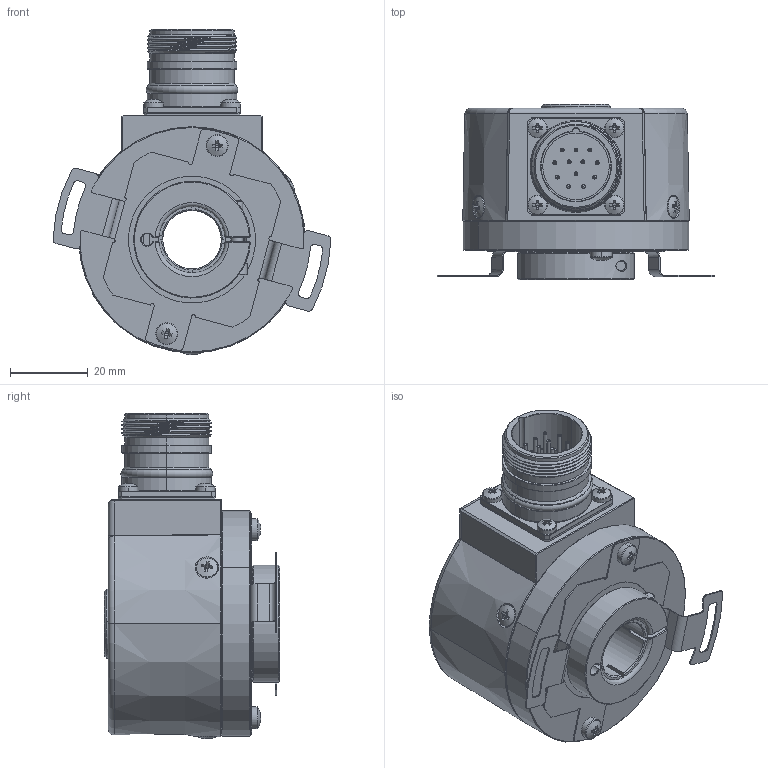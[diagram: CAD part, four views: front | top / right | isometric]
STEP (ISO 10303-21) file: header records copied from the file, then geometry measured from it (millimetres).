
FILE_DESCRIPTION (( 'STEP AP214' ), '1' );
FILE_NAME ('SASM8x20.STEP', '2023-10-11T07:28:55', ( '' ), ( '' ), 'SwSTEP 2.0', 'SolidWorks 2019', '' );
FILE_SCHEMA (( 'AUTOMOTIVE_DESIGN' ));
Length unit declared in the file: millimetre
Products named in the file (1): SASM8x20
Bounding box: 71.33 x 45 x 83.53 mm (x, y, z)
Volume: 63658.4 mm3; surface area: 37136.5 mm2
Topology: 1 solids, 26 shells, 1374 faces, 3385 edges, 2078 vertices
Faces by surface type: plane 673, cylinder 319, cone 223, bspline 82, torus 77
Entity records: 62775 total; most frequent: CARTESIAN_POINT 16389, ORIENTED_EDGE 6698, DIRECTION 6348, EDGE_CURVE 3349, AXIS2_PLACEMENT_3D 2528, VERTEX_POINT 2078, EDGE_LOOP 1483, UNCERTAINTY_MEASURE_WITH_UNIT 1377
